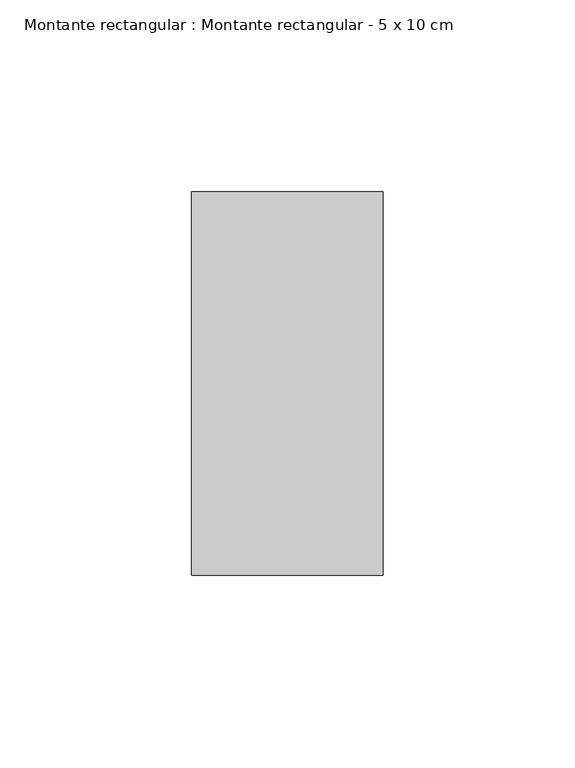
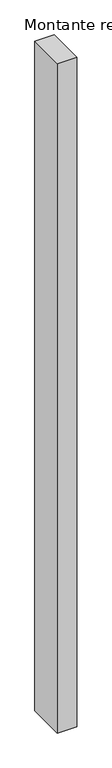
"""IFC4 building model written with IfcOpenShell, lengths in millimetres: member geometry, Montante rectangular : Montante rectangular - 5 x 10 cm."""

from ifc_helpers import new_model, si_unit, frame, origin, place, context, project, spatial, polyline, outline, extrude, source, transform, mapped, element, save


def montante_rectangular_montante_rectangular_5_x_10_cm_dc42450d(model_context):
    return source(origin(), model_context, "Body", "SweptSolid", [
        extrude(outline(polyline([(25.0, 50.0), (25.0, -50.0), (-25.0, -50.0), (-25.0, 50.0), (25.0, 50.0)])), frame((0.0, 0.0, -1827.2338044), z_axis=(0.0, 0.0, 1.0), x_axis=(1.0, 0.0, 0.0)), (0.0, 0.0, 1.0), 1827.2338044),
    ])


if __name__ == "__main__":
    model = new_model("IFC4")
    model_context = context("Model", 3, world=origin())
    ifc_project = project(units=[si_unit("LENGTHUNIT", "METRE", prefix="MILLI")], contexts=[model_context])
    site = spatial("IfcSite", under=ifc_project)
    building = spatial("IfcBuilding", under=site)
    placement = place(None, origin())
    montante_rectangular_montante_rectangular_5_x_10_cm_shape = montante_rectangular_montante_rectangular_5_x_10_cm_dc42450d(model_context)
    element("IfcMember", 1, ObjectType="Montante rectangular : Montante rectangular - 5 x 10 cm", at=placement, inside=building, context=model_context, shape_type="MappedRepresentation", body=[
        mapped(montante_rectangular_montante_rectangular_5_x_10_cm_shape, transform((0.0, 0.0, 0.0), x_axis=(1.0, 0.0, 0.0), y_axis=(0.0, 1.0, 0.0), z_axis=(0.0, 0.0, 1.0))),
    ])
    save(model, "model.ifc")
